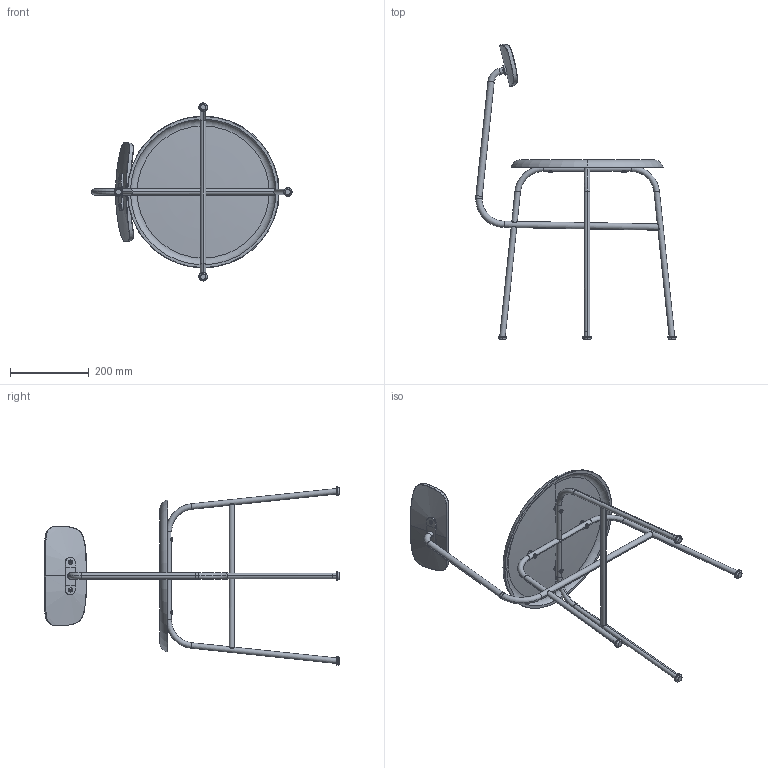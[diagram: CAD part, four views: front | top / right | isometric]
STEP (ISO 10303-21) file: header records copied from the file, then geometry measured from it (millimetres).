
FILE_DESCRIPTION (( 'STEP AP214' ), '1' );
FILE_NAME ('AFR_Dining plywood w. seat.STEP', '2023-11-07T11:56:12', ( '' ), ( '' ), 'SwSTEP 2.0', 'SolidWorks 2022', '' );
FILE_SCHEMA (( 'AUTOMOTIVE_DESIGN' ));
Length unit declared in the file: millimetre
Products named in the file (17): Afteroom_Dining_Chair_ply_seat; Countersunk m6 25; afteroom dinning chair back frame; Thread for backrest; afteroom dinning chair seat frame 1b; afteroom dinning chair feet disk; Mount disk 5mm; 1000003; Back mounting_Default<As Machined>; Afteroom_Dining_Chair_ply_seat_assem; Skids; afteroom dinning chair seat frame 3; afteroom dinning chair seat frame 2; socket button head screw_iso_ISO 7380 - M6 x 12 - 12S; afteroom dinning chair seat frame 1a; AFR_Dining plywood w. seat; M6 x 6 mm threaded insert
Assembly tree (34 placements, depth 3):
  AFR_Dining plywood w. seat
    afteroom dinning chair seat frame 1a
    afteroom dinning chair seat frame 1b
    afteroom dinning chair seat frame 2  x2
    afteroom dinning chair seat frame 3
    afteroom dinning chair back frame
    Back mounting_Default<As Machined>
    Countersunk m6 25  x4
    1000003
    socket button head screw_iso_ISO 7380 - M6 x 12 - 12S  x2
    Thread for backrest  x2
    Skids  x4
    afteroom dinning chair feet disk  x4
    Mount disk 5mm  x4
    Afteroom_Dining_Chair_ply_seat_assem
      Afteroom_Dining_Chair_ply_seat
      M6 x 6 mm threaded insert  x4
Bounding box: 508.11 x 748.05 x 451.35 mm (x, y, z)
Volume: 1541759 mm3; surface area: 607161.1 mm2
Topology: 33 solids, 33 shells, 838 faces, 2092 edges, 1306 vertices
Faces by surface type: cylinder 446, cone 156, plane 135, torus 52, bspline 37, sphere 12
Entity records: 26463 total; most frequent: CARTESIAN_POINT 17024, ORIENTED_EDGE 1904, DIRECTION 1761, EDGE_CURVE 952, AXIS2_PLACEMENT_3D 721, VERTEX_POINT 589, EDGE_LOOP 415, ADVANCED_FACE 385
